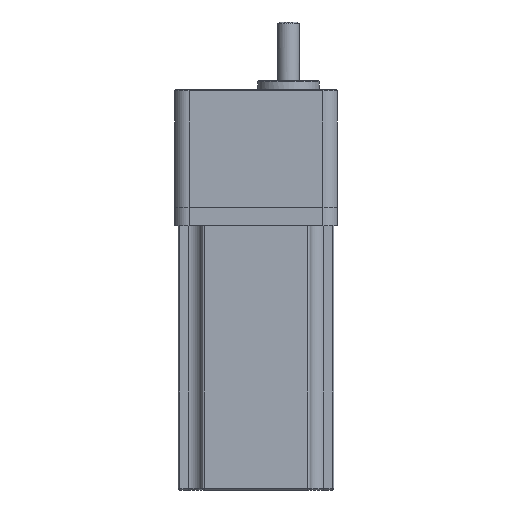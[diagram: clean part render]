
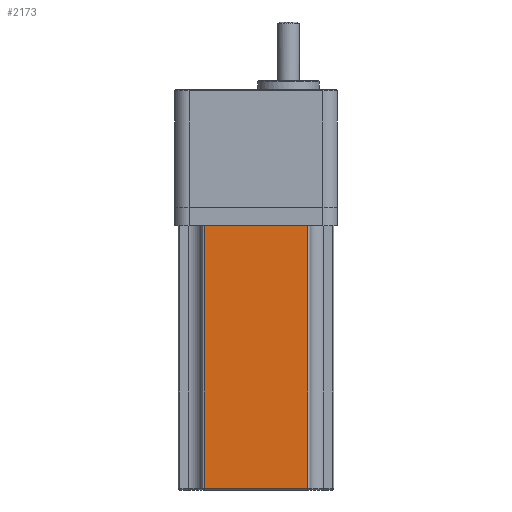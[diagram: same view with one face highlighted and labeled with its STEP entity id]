
A CAD part, front view. The second image highlights one B-rep face of the part: STEP entity #2173.
In plain terms, the highlighted planar face has unit normal (0, -1, 0).
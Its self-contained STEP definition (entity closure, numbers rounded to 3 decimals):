
#95 = VECTOR ( 'NONE', #1621, 1000. ) ;
#233 = LINE ( 'NONE', #1639, #95 ) ;
#321 = FACE_OUTER_BOUND ( 'NONE', #921, .T. ) ;
#386 = LINE ( 'NONE', #2371, #1469 ) ;
#468 = ORIENTED_EDGE ( 'NONE', *, *, #4543, .T. ) ;
#541 = LINE ( 'NONE', #2040, #3739 ) ;
#868 = CARTESIAN_POINT ( 'NONE',  ( -10.357, -54.139, 1.75 ) ) ;
#921 = EDGE_LOOP ( 'NONE', ( #5542, #5496, #468, #3503 ) ) ;
#1469 = VECTOR ( 'NONE', #2394, 1000. ) ;
#1621 = DIRECTION ( 'NONE',  ( 0., 0., 1. ) ) ;
#1639 = CARTESIAN_POINT ( 'NONE',  ( -10.357, -54.139, 0.75 ) ) ;
#1754 = CARTESIAN_POINT ( 'NONE',  ( -10.357, -54.139, 146.75 ) ) ;
#1777 = DIRECTION ( 'NONE',  ( -1., 0., 0. ) ) ;
#1788 = DIRECTION ( 'NONE',  ( 0., 1., 0. ) ) ;
#1846 = CARTESIAN_POINT ( 'NONE',  ( 47.087, -54.139, 0.75 ) ) ;
#1961 = PLANE ( 'NONE',  #5136 ) ;
#2004 = DIRECTION ( 'NONE',  ( 1., 0., 0. ) ) ;
#2040 = CARTESIAN_POINT ( 'NONE',  ( 47.087, -54.139, 1.75 ) ) ;
#2173 = ADVANCED_FACE ( 'NONE', ( #321 ), #1961, .F. ) ;
#2184 = VERTEX_POINT ( 'NONE', #1754 ) ;
#2371 = CARTESIAN_POINT ( 'NONE',  ( 47.087, -54.139, 0.75 ) ) ;
#2394 = DIRECTION ( 'NONE',  ( 0., 0., 1. ) ) ;
#3225 = VECTOR ( 'NONE', #3714, 1000. ) ;
#3234 = VERTEX_POINT ( 'NONE', #5772 ) ;
#3503 = ORIENTED_EDGE ( 'NONE', *, *, #4069, .T. ) ;
#3676 = CARTESIAN_POINT ( 'NONE',  ( 47.087, -54.139, 146.75 ) ) ;
#3714 = DIRECTION ( 'NONE',  ( -1., 0., 0. ) ) ;
#3739 = VECTOR ( 'NONE', #2004, 1000. ) ;
#4012 = CARTESIAN_POINT ( 'NONE',  ( 47.087, -54.139, 1.75 ) ) ;
#4069 = EDGE_CURVE ( 'NONE', #3234, #2184, #5568, .T. ) ;
#4259 = EDGE_CURVE ( 'NONE', #5125, #5029, #541, .T. ) ;
#4289 = EDGE_CURVE ( 'NONE', #5125, #2184, #233, .T. ) ;
#4543 = EDGE_CURVE ( 'NONE', #5029, #3234, #386, .T. ) ;
#5029 = VERTEX_POINT ( 'NONE', #4012 ) ;
#5125 = VERTEX_POINT ( 'NONE', #868 ) ;
#5136 = AXIS2_PLACEMENT_3D ( 'NONE', #1846, #1788, #1777 ) ;
#5496 = ORIENTED_EDGE ( 'NONE', *, *, #4259, .T. ) ;
#5542 = ORIENTED_EDGE ( 'NONE', *, *, #4289, .F. ) ;
#5568 = LINE ( 'NONE', #3676, #3225 ) ;
#5772 = CARTESIAN_POINT ( 'NONE',  ( 47.087, -54.139, 146.75 ) ) ;
